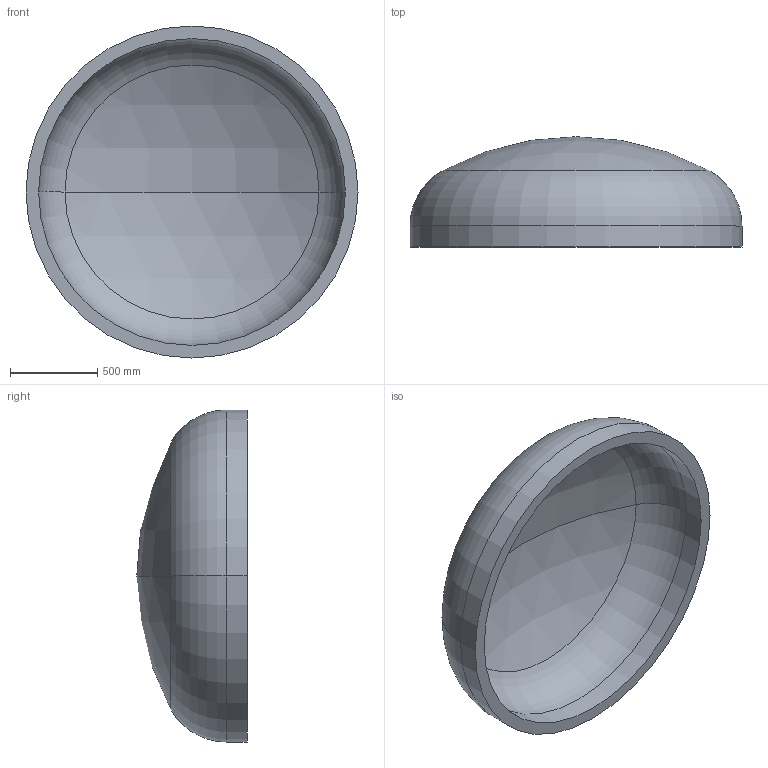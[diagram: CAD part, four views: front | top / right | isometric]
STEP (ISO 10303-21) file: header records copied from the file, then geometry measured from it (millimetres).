
FILE_DESCRIPTION (( 'STEP AP203' ), '1' );
FILE_NAME ('DIN 28013 Korbbogenform_-_Boden DIN 28013 - 1900 x 120 - I - s=72.step', '2016-07-01T13:18:18', ( '' ), ( '' ), 'SwSTEP 2.0', 'SolidWorks 2013', '' );
FILE_SCHEMA (( 'CONFIG_CONTROL_DESIGN' ));
Length unit declared in the file: millimetre
Products named in the file (1): DIN 28013 Korbbogenform_-_Boden DIN 28013 - 1900 x 120 - I - s=72
Bounding box: 1900 x 631.65 x 1900 mm (x, y, z)
Volume: 318295965 mm3; surface area: 9265893.3 mm2
Topology: 1 solids, 1 shells, 13 faces, 24 edges, 14 vertices
Faces by surface type: torus 4, cylinder 4, sphere 4, plane 1
Entity records: 407 total; most frequent: DIRECTION 72, CARTESIAN_POINT 52, ORIENTED_EDGE 48, AXIS2_PLACEMENT_3D 34, EDGE_CURVE 24, CIRCLE 20, VERTEX_POINT 14, EDGE_LOOP 14
